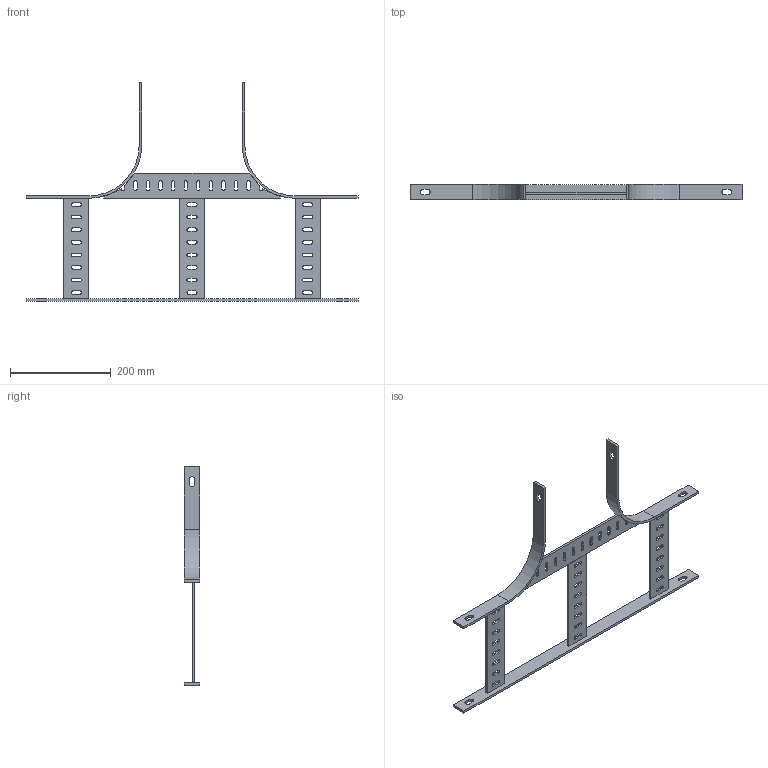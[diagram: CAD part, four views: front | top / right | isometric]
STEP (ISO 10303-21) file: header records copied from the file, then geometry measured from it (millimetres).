
FILE_DESCRIPTION(('Creo Elements/Direct Modeling STEP Export'),'2;1');
FILE_NAME('//pserver/office/EK/ME10-3D/3D-output/SLA 200.stp','2020-03-10T 9:34:20',(''),(''),'PTC Creo Elements/Direct Modeling STEP processor for AP214 (Solid Model)','PTC Creo Elements/Direct Modeling 19.0C 15-Aug-2015 (C) Parametric Technology GmbH','');
FILE_SCHEMA(('AUTOMOTIVE_DESIGN { 1 0 10303 214 1 1 1 1 }'));
Length unit declared in the file: millimetre
Products named in the file (5): SKL_200B_Strebe.1.1; SLA_Holm_20-L660; SLB_HI_200; SLA_Strebe_20; SLA_200
Assembly tree (7 placements, depth 2):
  SLA_200
    SKL_200B_Strebe.1.1  x3
    SLA_Strebe_20
    SLB_HI_200  x2
    SLA_Holm_20-L660
Bounding box: 660 x 30 x 435 mm (x, y, z)
Volume: 374784.7 mm3; surface area: 198583.8 mm2
Topology: 7 solids, 7 shells, 220 faces, 618 edges, 412 vertices
Faces by surface type: plane 134, cylinder 86
Entity records: 4321 total; most frequent: CARTESIAN_POINT 724, DIRECTION 718, ORIENTED_EDGE 708, EDGE_CURVE 354, VECTOR 258, LINE 258, VERTEX_POINT 236, AXIS2_PLACEMENT_3D 230
